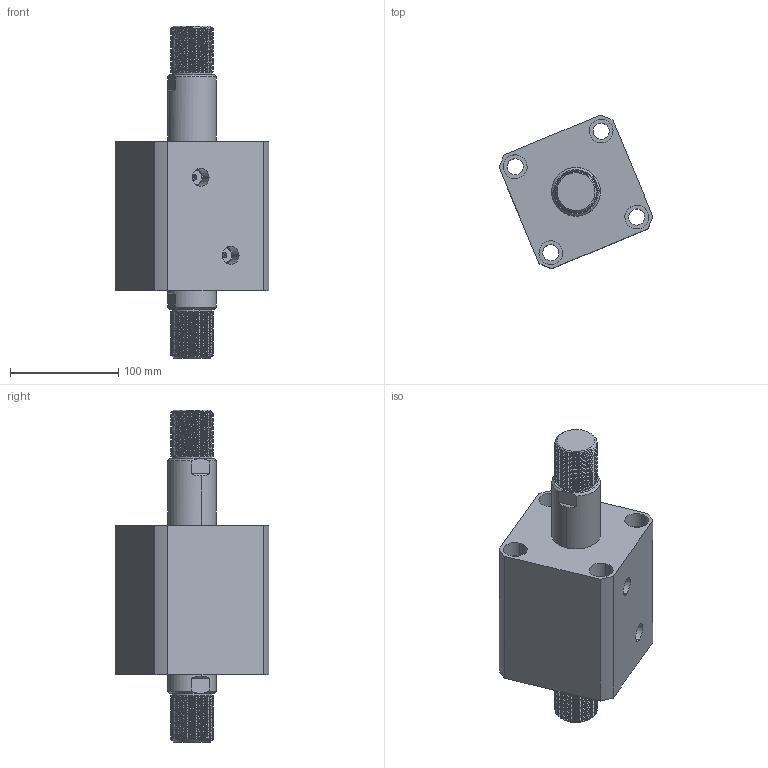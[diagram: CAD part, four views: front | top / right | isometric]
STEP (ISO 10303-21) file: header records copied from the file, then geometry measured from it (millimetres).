
FILE_DESCRIPTION (( 'STEP AP214' ), '1' );
FILE_NAME ('chtb-sw80x45w_asm.STEP', '2018-05-28T01:46:58', ( 'Windows' ), ( 'Microsoft' ), 'SwSTEP 2.0', 'SolidWorks 2015', '' );
FILE_SCHEMA (( 'AUTOMOTIVE_DESIGN' ));
Length unit declared in the file: millimetre
Products named in the file (4): CHTB-SW80X45WHSG; CHTB-SW80X45NBT; CHTB-SD80QG; chtb-sw80x45w_asm
Assembly tree (3 placements, depth 2):
  chtb-sw80x45w_asm
    CHTB-SD80QG
    CHTB-SW80X45NBT
    CHTB-SW80X45WHSG
Bounding box: 142.06 x 142.06 x 307 mm (x, y, z)
Volume: 1700161 mm3; surface area: 234115.7 mm2
Topology: 3 solids, 3 shells, 330 faces, 908 edges, 607 vertices
Faces by surface type: cylinder 221, plane 48, cone 25, bspline 18, torus 18
Entity records: 25864 total; most frequent: CARTESIAN_POINT 18238, ORIENTED_EDGE 1808, DIRECTION 1338, EDGE_CURVE 904, VERTEX_POINT 607, AXIS2_PLACEMENT_3D 532, EDGE_LOOP 373, ADVANCED_FACE 330
